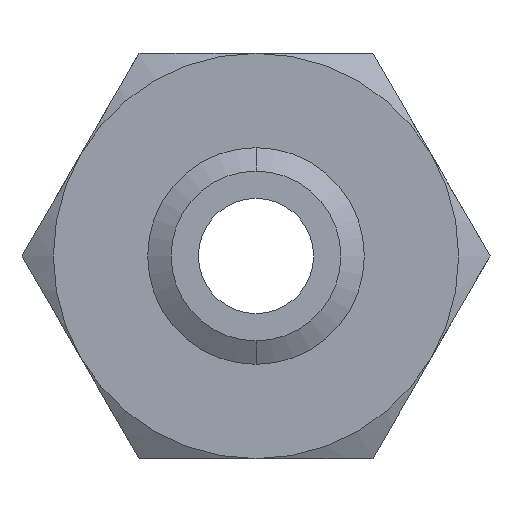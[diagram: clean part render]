
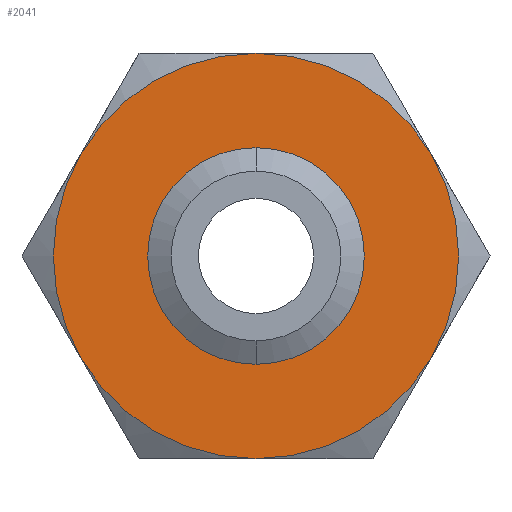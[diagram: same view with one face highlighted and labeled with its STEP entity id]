
A CAD part, front view. The second image highlights one B-rep face of the part: STEP entity #2041.
In plain terms, the highlighted planar face has unit normal (0, -1, 0).
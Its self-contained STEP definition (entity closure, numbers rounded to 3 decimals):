
#231 = EDGE_CURVE ( 'NONE', #232, #233, #704, .T. ) ;
#232 = VERTEX_POINT ( 'NONE', #699 ) ;
#233 = VERTEX_POINT ( 'NONE', #698 ) ;
#698 = CARTESIAN_POINT ( 'NONE',  ( 0., 0., 19.901 ) ) ;
#699 = CARTESIAN_POINT ( 'NONE',  ( 0., 0., -19.901 ) ) ;
#700 = DIRECTION ( 'NONE',  ( 0., 0., -1. ) ) ;
#701 = DIRECTION ( 'NONE',  ( 0., -1., 0. ) ) ;
#702 = CARTESIAN_POINT ( 'NONE',  ( 0., 0., 0. ) ) ;
#703 = AXIS2_PLACEMENT_3D ( 'NONE', #702, #701, #700 ) ;
#704 = CIRCLE ( 'NONE', #703, 19.901 ) ;
#1380 = CARTESIAN_POINT ( 'NONE',  ( 0., 0., -47.5 ) ) ;
#1381 = CIRCLE ( 'NONE', #1443, 47.5 ) ;
#1382 = CARTESIAN_POINT ( 'NONE',  ( 41.136, 0., -23.75 ) ) ;
#1388 = DIRECTION ( 'NONE',  ( 0., 0., 1. ) ) ;
#1389 = DIRECTION ( 'NONE',  ( 0., 1., 0. ) ) ;
#1390 = CARTESIAN_POINT ( 'NONE',  ( 0., 0., 0. ) ) ;
#1391 = AXIS2_PLACEMENT_3D ( 'NONE', #1390, #1389, #1388 ) ;
#1396 = CIRCLE ( 'NONE', #1391, 47.5 ) ;
#1407 = CARTESIAN_POINT ( 'NONE',  ( 0., 0., 47.5 ) ) ;
#1412 = CARTESIAN_POINT ( 'NONE',  ( 0., 0., 0. ) ) ;
#1416 = DIRECTION ( 'NONE',  ( 0., 0., 1. ) ) ;
#1417 = DIRECTION ( 'NONE',  ( 0., 1., 0. ) ) ;
#1418 = CARTESIAN_POINT ( 'NONE',  ( 0., 0., 0. ) ) ;
#1419 = AXIS2_PLACEMENT_3D ( 'NONE', #1418, #1417, #1416 ) ;
#1420 = CIRCLE ( 'NONE', #1419, 47.5 ) ;
#1422 = DIRECTION ( 'NONE',  ( 0., 0., 1. ) ) ;
#1423 = DIRECTION ( 'NONE',  ( 0., 1., 0. ) ) ;
#1424 = CARTESIAN_POINT ( 'NONE',  ( 0., 0., 0. ) ) ;
#1425 = AXIS2_PLACEMENT_3D ( 'NONE', #1424, #1423, #1422 ) ;
#1426 = CIRCLE ( 'NONE', #1425, 47.5 ) ;
#1427 = DIRECTION ( 'NONE',  ( 0., 0., 1. ) ) ;
#1428 = DIRECTION ( 'NONE',  ( 0., 1., 0. ) ) ;
#1429 = CARTESIAN_POINT ( 'NONE',  ( 0., 0., 0. ) ) ;
#1430 = AXIS2_PLACEMENT_3D ( 'NONE', #1429, #1428, #1427 ) ;
#1431 = CIRCLE ( 'NONE', #1430, 47.5 ) ;
#1432 = CARTESIAN_POINT ( 'NONE',  ( -41.136, 0., -23.75 ) ) ;
#1433 = DIRECTION ( 'NONE',  ( 0., 0., 1. ) ) ;
#1434 = DIRECTION ( 'NONE',  ( 0., 1., 0. ) ) ;
#1435 = CARTESIAN_POINT ( 'NONE',  ( 0., 0., 0. ) ) ;
#1436 = AXIS2_PLACEMENT_3D ( 'NONE', #1435, #1434, #1433 ) ;
#1437 = CIRCLE ( 'NONE', #1436, 47.5 ) ;
#1438 = CARTESIAN_POINT ( 'NONE',  ( -41.136, 0., 23.75 ) ) ;
#1439 = CARTESIAN_POINT ( 'NONE',  ( 41.136, 0., 23.75 ) ) ;
#1440 = DIRECTION ( 'NONE',  ( 0., 0., 1. ) ) ;
#1441 = DIRECTION ( 'NONE',  ( 0., 1., 0. ) ) ;
#1442 = CARTESIAN_POINT ( 'NONE',  ( 0., 0., 0. ) ) ;
#1443 = AXIS2_PLACEMENT_3D ( 'NONE', #1442, #1441, #1440 ) ;
#1448 = DIRECTION ( 'NONE',  ( 0., 0., 1. ) ) ;
#1449 = DIRECTION ( 'NONE',  ( 0., 1., 0. ) ) ;
#1451 = CARTESIAN_POINT ( 'NONE',  ( 27.424, 0., -47.5 ) ) ;
#1452 = AXIS2_PLACEMENT_3D ( 'NONE', #1451, #1449, #1448 ) ;
#1453 = PLANE ( 'NONE',  #1452 ) ;
#1454 = FACE_BOUND ( 'NONE', #2017, .T. ) ;
#1455 = FACE_OUTER_BOUND ( 'NONE', #1998, .T. ) ;
#1469 = DIRECTION ( 'NONE',  ( 0., 0., -1. ) ) ;
#1470 = DIRECTION ( 'NONE',  ( 0., -1., 0. ) ) ;
#1471 = AXIS2_PLACEMENT_3D ( 'NONE', #1412, #1470, #1469 ) ;
#1472 = CIRCLE ( 'NONE', #1471, 19.901 ) ;
#1998 = EDGE_LOOP ( 'NONE', ( #1999, #2023, #2027, #2030, #2022, #2016 ) ) ;
#1999 = ORIENTED_EDGE ( 'NONE', *, *, #2032, .F. ) ;
#2000 = VERTEX_POINT ( 'NONE', #1407 ) ;
#2009 = ORIENTED_EDGE ( 'NONE', *, *, #231, .F. ) ;
#2010 = EDGE_CURVE ( 'NONE', #2024, #2015, #1396, .T. ) ;
#2015 = VERTEX_POINT ( 'NONE', #1382 ) ;
#2016 = ORIENTED_EDGE ( 'NONE', *, *, #2010, .F. ) ;
#2017 = EDGE_LOOP ( 'NONE', ( #2009, #2018 ) ) ;
#2018 = ORIENTED_EDGE ( 'NONE', *, *, #2035, .F. ) ;
#2020 = EDGE_CURVE ( 'NONE', #2015, #2021, #1381, .T. ) ;
#2021 = VERTEX_POINT ( 'NONE', #1380 ) ;
#2022 = ORIENTED_EDGE ( 'NONE', *, *, #2020, .F. ) ;
#2023 = ORIENTED_EDGE ( 'NONE', *, *, #2026, .F. ) ;
#2024 = VERTEX_POINT ( 'NONE', #1439 ) ;
#2025 = VERTEX_POINT ( 'NONE', #1438 ) ;
#2026 = EDGE_CURVE ( 'NONE', #2025, #2000, #1437, .T. ) ;
#2027 = ORIENTED_EDGE ( 'NONE', *, *, #2029, .F. ) ;
#2028 = VERTEX_POINT ( 'NONE', #1432 ) ;
#2029 = EDGE_CURVE ( 'NONE', #2028, #2025, #1431, .T. ) ;
#2030 = ORIENTED_EDGE ( 'NONE', *, *, #2031, .F. ) ;
#2031 = EDGE_CURVE ( 'NONE', #2021, #2028, #1426, .T. ) ;
#2032 = EDGE_CURVE ( 'NONE', #2000, #2024, #1420, .T. ) ;
#2035 = EDGE_CURVE ( 'NONE', #233, #232, #1472, .T. ) ;
#2041 = ADVANCED_FACE ( 'NONE', ( #1455, #1454 ), #1453, .F. ) ;
